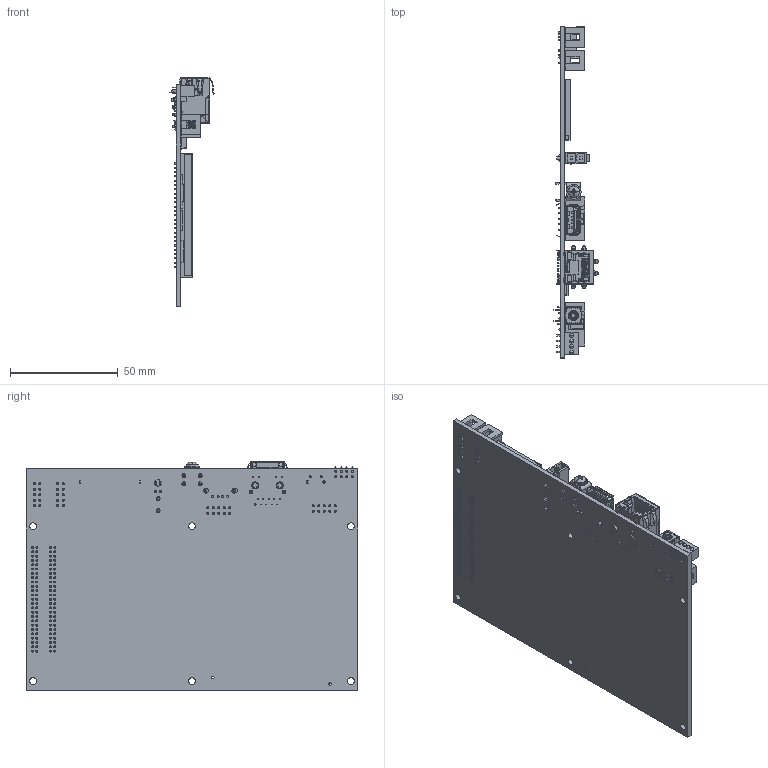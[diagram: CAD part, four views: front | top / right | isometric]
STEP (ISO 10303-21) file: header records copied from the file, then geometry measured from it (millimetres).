
FILE_DESCRIPTION((''),'2;1');
FILE_NAME('CU_SBRIO-9637','2015-07-01T',('tsim'),(''),'PRO/ENGINEER BY PARAMETRIC TECHNOLOGY CORPORATION, 2014000','PRO/ENGINEER BY PARAMETRIC TECHNOLOGY CORPORATION, 2014000','');
FILE_SCHEMA(('CONFIG_CONTROL_DESIGN'));
Products named in the file (1): CU_SBRIO-9637
Bounding box: 20.5 x 153.67 x 106.32 mm (x, y, z)
Volume: 43891.8 mm3; surface area: 52892.5 mm2
Topology: 5 solids, 6 shells, 5843 faces, 14734 edges, 9169 vertices
Faces by surface type: plane 3923, cylinder 1701, bspline 129, sphere 50, torus 14, cone 14, extrusion 12
Entity records: 179011 total; most frequent: CARTESIAN_POINT 40507, ORIENTED_EDGE 29348, DIRECTION 26633, EDGE_CURVE 14674, VECTOR 11561, LINE 11549, VERTEX_POINT 9188, AXIS2_PLACEMENT_3D 7536
